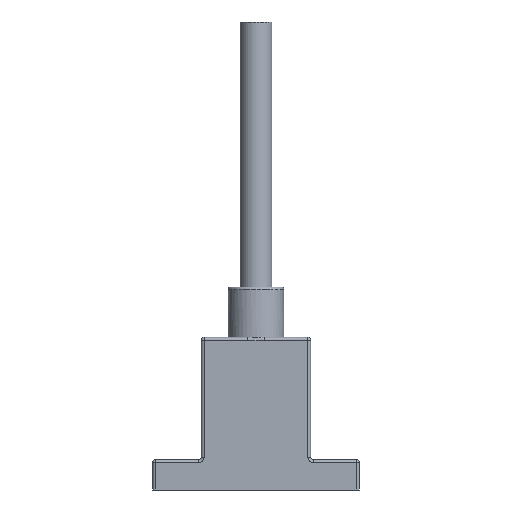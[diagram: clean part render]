
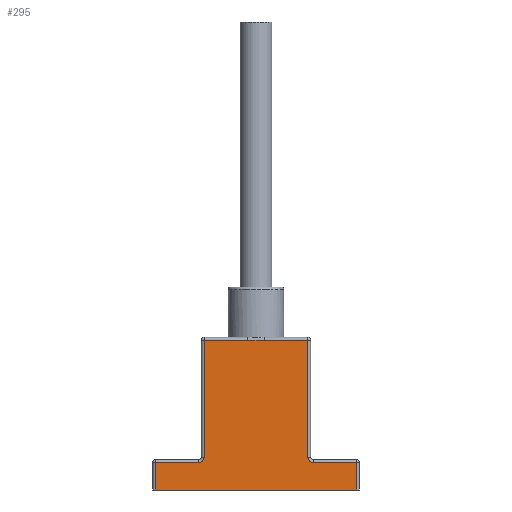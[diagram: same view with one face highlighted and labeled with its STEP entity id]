
A CAD part, left-side view. The second image highlights one B-rep face of the part: STEP entity #295.
In plain terms, the highlighted planar face has unit normal (-1, 0, 0).
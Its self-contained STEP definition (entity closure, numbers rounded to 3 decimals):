
#97 = VERTEX_POINT('',#98);
#98 = CARTESIAN_POINT('',(-5.5,19.,0.));
#105 = EDGE_CURVE('',#97,#106,#108,.T.);
#106 = VERTEX_POINT('',#107);
#107 = CARTESIAN_POINT('',(-5.5,-19.,0.));
#108 = LINE('',#109,#110);
#109 = CARTESIAN_POINT('',(-5.5,19.5,0.));
#110 = VECTOR('',#111,1.);
#111 = DIRECTION('',(0.,-1.,0.));
#217 = EDGE_CURVE('',#106,#218,#220,.T.);
#218 = VERTEX_POINT('',#219);
#219 = CARTESIAN_POINT('',(-5.5,-19.,5.2));
#220 = LINE('',#221,#222);
#221 = CARTESIAN_POINT('',(-5.5,-19.,0.));
#222 = VECTOR('',#223,1.);
#223 = DIRECTION('',(0.,0.,1.));
#295 = ADVANCED_FACE('',(#296),#386,.T.);
#296 = FACE_BOUND('',#297,.T.);
#297 = EDGE_LOOP('',(#298,#299,#300,#308,#317,#325,#333,#347,#355,#363,
    #372,#380));
#298 = ORIENTED_EDGE('',*,*,#105,.T.);
#299 = ORIENTED_EDGE('',*,*,#217,.T.);
#300 = ORIENTED_EDGE('',*,*,#301,.F.);
#301 = EDGE_CURVE('',#302,#218,#304,.T.);
#302 = VERTEX_POINT('',#303);
#303 = CARTESIAN_POINT('',(-5.5,-10.8,5.2));
#304 = LINE('',#305,#306);
#305 = CARTESIAN_POINT('',(-5.5,-10.3,5.2));
#306 = VECTOR('',#307,1.);
#307 = DIRECTION('',(0.,-1.,0.));
#308 = ORIENTED_EDGE('',*,*,#309,.F.);
#309 = EDGE_CURVE('',#310,#302,#312,.T.);
#310 = VERTEX_POINT('',#311);
#311 = CARTESIAN_POINT('',(-5.5,-9.8,6.2));
#312 = CIRCLE('',#313,1.);
#313 = AXIS2_PLACEMENT_3D('',#314,#315,#316);
#314 = CARTESIAN_POINT('',(-5.5,-10.8,6.2));
#315 = DIRECTION('',(-1.,0.,0.));
#316 = DIRECTION('',(0.,1.,0.));
#317 = ORIENTED_EDGE('',*,*,#318,.T.);
#318 = EDGE_CURVE('',#310,#319,#321,.T.);
#319 = VERTEX_POINT('',#320);
#320 = CARTESIAN_POINT('',(-5.5,-9.8,28.3));
#321 = LINE('',#322,#323);
#322 = CARTESIAN_POINT('',(-5.5,-9.8,5.7));
#323 = VECTOR('',#324,1.);
#324 = DIRECTION('',(0.,0.,1.));
#325 = ORIENTED_EDGE('',*,*,#326,.F.);
#326 = EDGE_CURVE('',#327,#319,#329,.T.);
#327 = VERTEX_POINT('',#328);
#328 = CARTESIAN_POINT('',(-5.5,-1.601,28.3));
#329 = LINE('',#330,#331);
#330 = CARTESIAN_POINT('',(-5.5,10.3,28.3));
#331 = VECTOR('',#332,1.);
#332 = DIRECTION('',(0.,-1.,0.));
#333 = ORIENTED_EDGE('',*,*,#334,.F.);
#334 = EDGE_CURVE('',#335,#327,#337,.T.);
#335 = VERTEX_POINT('',#336);
#336 = CARTESIAN_POINT('',(-5.5,1.601,28.3));
#337 = ( BOUNDED_CURVE() B_SPLINE_CURVE(8,(#338,#339,#340,#341,#342,#343
,#344,#345,#346),.UNSPECIFIED.,.F.,.F.) B_SPLINE_CURVE_WITH_KNOTS((9,9),
(8.699,11.901),.PIECEWISE_BEZIER_KNOTS.) CURVE() 
GEOMETRIC_REPRESENTATION_ITEM() RATIONAL_B_SPLINE_CURVE((1.,1.,1.,1.,1.,
1.,1.,1.,1.)) REPRESENTATION_ITEM('') );
#338 = CARTESIAN_POINT('',(-5.5,1.601,28.3));
#339 = CARTESIAN_POINT('',(-5.5,1.201,28.3));
#340 = CARTESIAN_POINT('',(-5.5,0.8,28.338));
#341 = CARTESIAN_POINT('',(-5.5,0.4,28.37));
#342 = CARTESIAN_POINT('',(-5.5,0.,28.403));
#343 = CARTESIAN_POINT('',(-5.5,-0.4,28.37));
#344 = CARTESIAN_POINT('',(-5.5,-0.8,28.338));
#345 = CARTESIAN_POINT('',(-5.5,-1.201,28.3));
#346 = CARTESIAN_POINT('',(-5.5,-1.601,28.3));
#347 = ORIENTED_EDGE('',*,*,#348,.F.);
#348 = EDGE_CURVE('',#349,#335,#351,.T.);
#349 = VERTEX_POINT('',#350);
#350 = CARTESIAN_POINT('',(-5.5,9.8,28.3));
#351 = LINE('',#352,#353);
#352 = CARTESIAN_POINT('',(-5.5,10.3,28.3));
#353 = VECTOR('',#354,1.);
#354 = DIRECTION('',(0.,-1.,0.));
#355 = ORIENTED_EDGE('',*,*,#356,.F.);
#356 = EDGE_CURVE('',#357,#349,#359,.T.);
#357 = VERTEX_POINT('',#358);
#358 = CARTESIAN_POINT('',(-5.5,9.8,6.2));
#359 = LINE('',#360,#361);
#360 = CARTESIAN_POINT('',(-5.5,9.8,5.7));
#361 = VECTOR('',#362,1.);
#362 = DIRECTION('',(0.,0.,1.));
#363 = ORIENTED_EDGE('',*,*,#364,.F.);
#364 = EDGE_CURVE('',#365,#357,#367,.T.);
#365 = VERTEX_POINT('',#366);
#366 = CARTESIAN_POINT('',(-5.5,10.8,5.2));
#367 = CIRCLE('',#368,1.);
#368 = AXIS2_PLACEMENT_3D('',#369,#370,#371);
#369 = CARTESIAN_POINT('',(-5.5,10.8,6.2));
#370 = DIRECTION('',(-1.,-0.,-0.));
#371 = DIRECTION('',(0.,0.,-1.));
#372 = ORIENTED_EDGE('',*,*,#373,.F.);
#373 = EDGE_CURVE('',#374,#365,#376,.T.);
#374 = VERTEX_POINT('',#375);
#375 = CARTESIAN_POINT('',(-5.5,19.,5.2));
#376 = LINE('',#377,#378);
#377 = CARTESIAN_POINT('',(-5.5,19.5,5.2));
#378 = VECTOR('',#379,1.);
#379 = DIRECTION('',(0.,-1.,0.));
#380 = ORIENTED_EDGE('',*,*,#381,.F.);
#381 = EDGE_CURVE('',#97,#374,#382,.T.);
#382 = LINE('',#383,#384);
#383 = CARTESIAN_POINT('',(-5.5,19.,0.));
#384 = VECTOR('',#385,1.);
#385 = DIRECTION('',(0.,0.,1.));
#386 = PLANE('',#387);
#387 = AXIS2_PLACEMENT_3D('',#388,#389,#390);
#388 = CARTESIAN_POINT('',(-5.5,0.,11.265));
#389 = DIRECTION('',(-1.,-0.,-0.));
#390 = DIRECTION('',(0.,0.,-1.));
